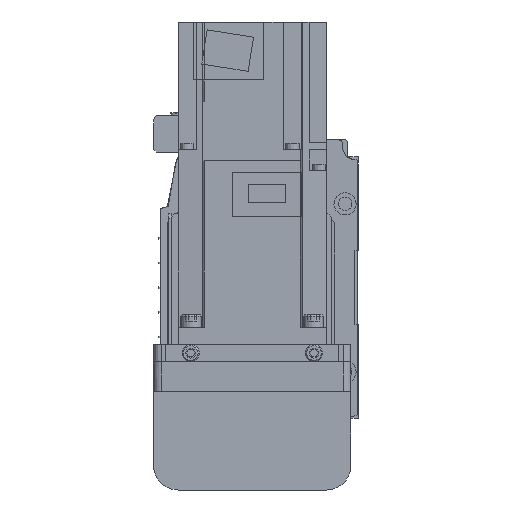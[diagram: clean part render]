
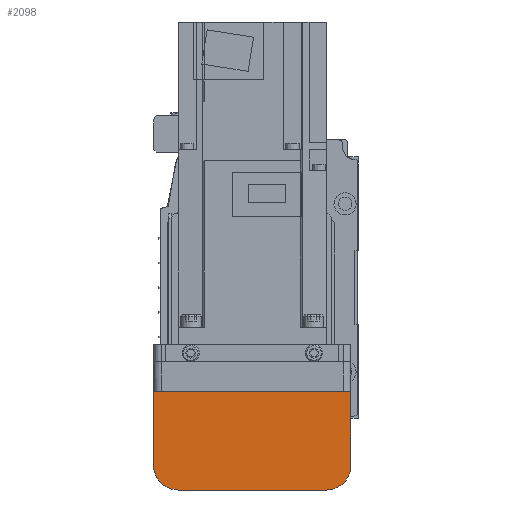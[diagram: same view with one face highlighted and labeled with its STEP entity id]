
A CAD part, left-side view. The second image highlights one B-rep face of the part: STEP entity #2098.
In plain terms, the highlighted planar face has unit normal (-1, 0, 0).
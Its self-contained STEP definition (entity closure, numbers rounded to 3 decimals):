
#2098 = ADVANCED_FACE( '', ( #4466 ), #4467, .F. );
#4466 = FACE_OUTER_BOUND( '', #7026, .T. );
#4467 = PLANE( '', #7027 );
#7026 = EDGE_LOOP( '', ( #12798, #12799, #12800, #12801, #12802, #12803 ) );
#7027 = AXIS2_PLACEMENT_3D( '', #12804, #12805, #12806 );
#12798 = ORIENTED_EDGE( '', *, *, #15904, .F. );
#12799 = ORIENTED_EDGE( '', *, *, #15259, .F. );
#12800 = ORIENTED_EDGE( '', *, *, #15042, .F. );
#12801 = ORIENTED_EDGE( '', *, *, #14798, .F. );
#12802 = ORIENTED_EDGE( '', *, *, #14284, .F. );
#12803 = ORIENTED_EDGE( '', *, *, #16586, .F. );
#12804 = CARTESIAN_POINT( '', ( -192., 37., 7. ) );
#12805 = DIRECTION( '', ( 1., 0., 0. ) );
#12806 = DIRECTION( '', ( 0., 0., -1. ) );
#14284 = EDGE_CURVE( '', #16846, #16848, #16849, .T. );
#14798 = EDGE_CURVE( '', #16848, #17777, #17778, .T. );
#15042 = EDGE_CURVE( '', #17777, #18195, #18196, .T. );
#15259 = EDGE_CURVE( '', #18195, #18541, #18542, .T. );
#15904 = EDGE_CURVE( '', #18541, #18086, #19496, .T. );
#16586 = EDGE_CURVE( '', #18086, #16846, #20367, .T. );
#16846 = VERTEX_POINT( '', #20640 );
#16848 = VERTEX_POINT( '', #20643 );
#16849 = CIRCLE( '', #20644, 10. );
#17777 = VERTEX_POINT( '', #21872 );
#17778 = LINE( '', #21873, #21874 );
#18086 = VERTEX_POINT( '', #22272 );
#18195 = VERTEX_POINT( '', #22425 );
#18196 = CIRCLE( '', #22426, 10. );
#18541 = VERTEX_POINT( '', #22881 );
#18542 = LINE( '', #22882, #22883 );
#19496 = LINE( '', #24176, #24177 );
#20367 = LINE( '', #25331, #25332 );
#20640 = CARTESIAN_POINT( '', ( -192., -40., -42. ) );
#20643 = CARTESIAN_POINT( '', ( -192., -30., -52. ) );
#20644 = AXIS2_PLACEMENT_3D( '', #25663, #25664, #25665 );
#21872 = CARTESIAN_POINT( '', ( -192., 30., -52. ) );
#21873 = CARTESIAN_POINT( '', ( -192., -30., -52. ) );
#21874 = VECTOR( '', #26368, 1000. );
#22272 = CARTESIAN_POINT( '', ( -192., -40., -12.1 ) );
#22425 = CARTESIAN_POINT( '', ( -192., 40., -42. ) );
#22426 = AXIS2_PLACEMENT_3D( '', #26701, #26702, #26703 );
#22881 = CARTESIAN_POINT( '', ( -192., 40., -12.1 ) );
#22882 = CARTESIAN_POINT( '', ( -192., 40., -42. ) );
#22883 = VECTOR( '', #26985, 1000. );
#24176 = CARTESIAN_POINT( '', ( -192., 50., -12.1 ) );
#24177 = VECTOR( '', #27769, 1000. );
#25331 = CARTESIAN_POINT( '', ( -192., -40., -12.1 ) );
#25332 = VECTOR( '', #28476, 1000. );
#25663 = CARTESIAN_POINT( '', ( -192., -30., -42. ) );
#25664 = DIRECTION( '', ( 1., 0., 0. ) );
#25665 = DIRECTION( '', ( 0., 0., -1. ) );
#26368 = DIRECTION( '', ( 0., 1., 0. ) );
#26701 = CARTESIAN_POINT( '', ( -192., 30., -42. ) );
#26702 = DIRECTION( '', ( 1., 0., 0. ) );
#26703 = DIRECTION( '', ( 0., 0., -1. ) );
#26985 = DIRECTION( '', ( 0., 0., 1. ) );
#27769 = DIRECTION( '', ( 0., -1., 0. ) );
#28476 = DIRECTION( '', ( 0., 0., -1. ) );
